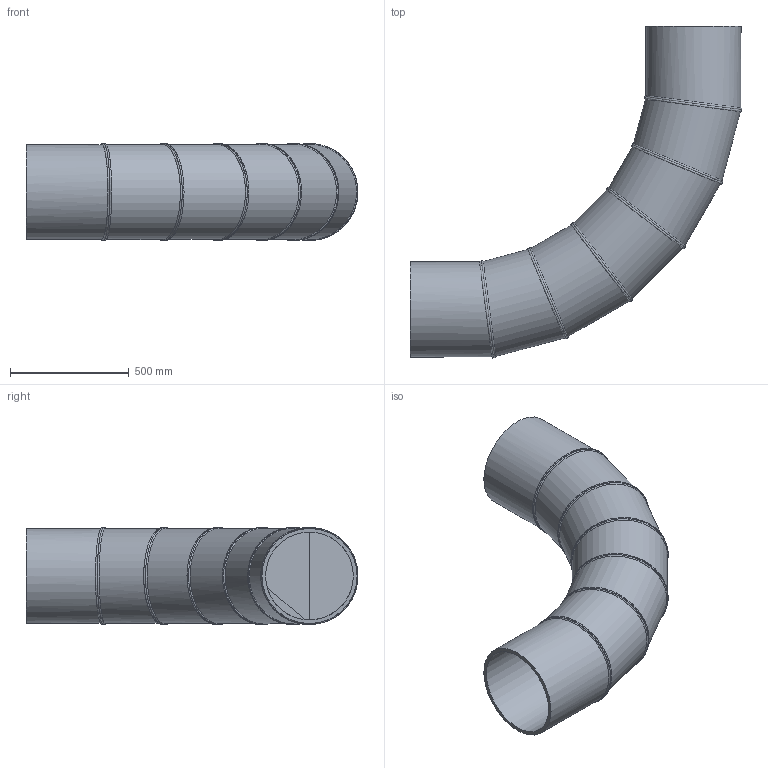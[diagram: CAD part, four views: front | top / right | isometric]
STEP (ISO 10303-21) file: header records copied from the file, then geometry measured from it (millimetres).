
FILE_DESCRIPTION(/* description */ ('Unknown'),/* implementation_level */ '2;1');
FILE_NAME(/* name */ 'Curva 90° a settore DE400 SDR26',/* time_stamp */ '2022-07-27T09:50:48+02:00',/* author */ ('Unknown'),/* organization */ ('Unknown'),/* preprocessor_version */ 'ST-DEVELOPER v18.102',/* originating_system */ 'Solid Edge',/* authorisation */ 'Unknown');
FILE_SCHEMA (('AUTOMOTIVE_DESIGN {1 0 10303 214 3 1 1}'));
Length unit declared in the file: millimetre
Products named in the file (3): Curva 90° a settore DE400 SDR26; Tubo x Gomito 90° DE400 SDR26 - 2; Tubo x Gomito 90° DE400 SDR26 - 1
Assembly tree (7 placements, depth 2):
  Curva 90° a settore DE400 SDR26
    Tubo x Gomito 90° DE400 SDR26 - 2  x5
    Tubo x Gomito 90° DE400 SDR26 - 1  x2
Bounding box: 1396.55 x 1396.55 x 407.99 mm (x, y, z)
Volume: 36733901 mm3; surface area: 5084324.7 mm2
Topology: 7 solids, 7 shells, 64 faces, 143 edges, 93 vertices
Faces by surface type: cylinder 38, plane 14, bspline 12
Full cylindrical faces by diameter (mm): 369.4 x7, 400 x7
Entity records: 2408 total; most frequent: CARTESIAN_POINT 1985, DIRECTION 78, ORIENTED_EDGE 52, AXIS2_PLACEMENT_3D 39, EDGE_LOOP 28, FACE_BOUND 28, EDGE_CURVE 26, VERTEX_POINT 20
